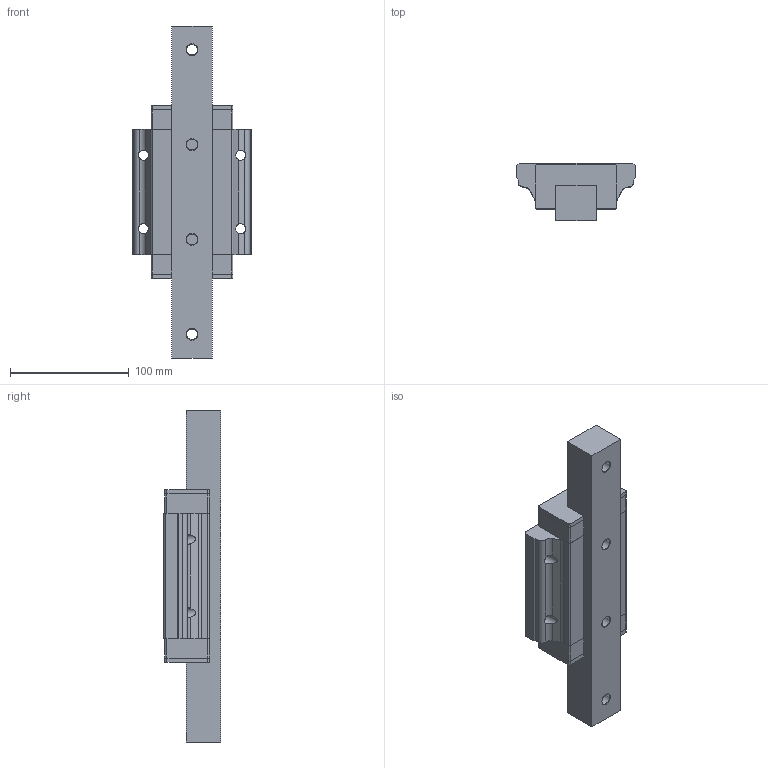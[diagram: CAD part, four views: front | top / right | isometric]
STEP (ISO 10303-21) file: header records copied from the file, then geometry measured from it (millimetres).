
FILE_DESCRIPTION((''),'2;1');
FILE_NAME('E:\PDF郪磁芞\DFH35AL.STP','2018-01-27T14:14:03',(''),(''),'STEP Write','Mastercam V9 ... CNC Software, Inc.','');
FILE_SCHEMA(('CONFIG_CONTROL_DESIGN'));
Length unit declared in the file: millimetre
Bounding box: 100 x 48.1 x 280 mm (x, y, z)
Volume: 614839.6 mm3; surface area: 104553.8 mm2
Topology: 6 solids, 6 shells, 126 faces, 623 edges, 786 vertices
Faces by surface type: plane 78, cylinder 40, cone 8
Full cylindrical faces by diameter (mm): 8.5 x4, 9 x4, 14 x4
Entity records: 6774 total; most frequent: CARTESIAN_POINT 2410, DIRECTION 935, ORIENTED_EDGE 652, VECTOR 411, LINE 411, EDGE_CURVE 326, AXIS2_PLACEMENT_3D 262, TRIMMED_CURVE 261
